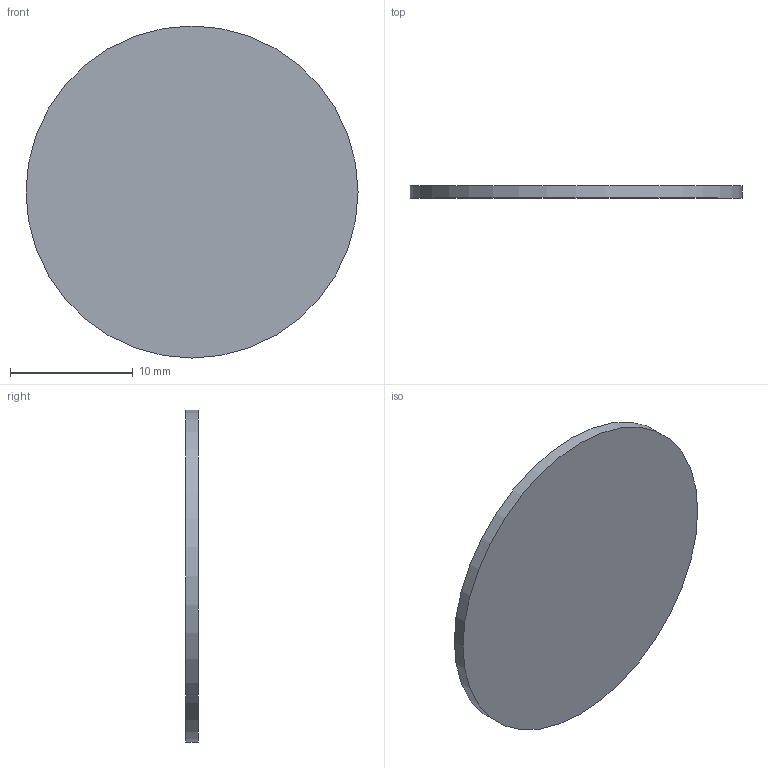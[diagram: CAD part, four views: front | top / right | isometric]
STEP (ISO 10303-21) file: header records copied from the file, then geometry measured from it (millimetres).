
FILE_DESCRIPTION(/* description */ ('Зеркало'),/* implementation_level */ '2;1');
FILE_NAME(/* name */ 'D:\ \Работа\JuniorSkills\2018\ОтборочныйЗадание\Микроскоп\STEP\Зеркало.stp',/* time_stamp */ '2017-11-09T06:45:18+07:00',/* author */ ('Andrey'),/* organization */ (''),/* preprocessor_version */ 'ST-DEVELOPER v15.6',/* originating_system */ 'Autodesk Inventor 2015',/* authorisation */ '');
FILE_SCHEMA (('AUTOMOTIVE_DESIGN { 1 0 10303 214 3 1 1 }'));
Length unit declared in the file: millimetre
Products named in the file (1): Зеркало
Bounding box: 27 x 1 x 27 mm (x, y, z)
Volume: 572.6 mm3; surface area: 1229.9 mm2
Topology: 1 solids, 1 shells, 3 faces, 3 edges, 2 vertices
Faces by surface type: plane 2, cylinder 1
Full cylindrical faces by diameter (mm): 27 x1
Entity records: 78 total; most frequent: DIRECTION 12, CARTESIAN_POINT 8, AXIS2_PLACEMENT_3D 6, EDGE_LOOP 4, ORIENTED_EDGE 4, FACE_OUTER_BOUND 3, ADVANCED_FACE 3, PLANE 2
